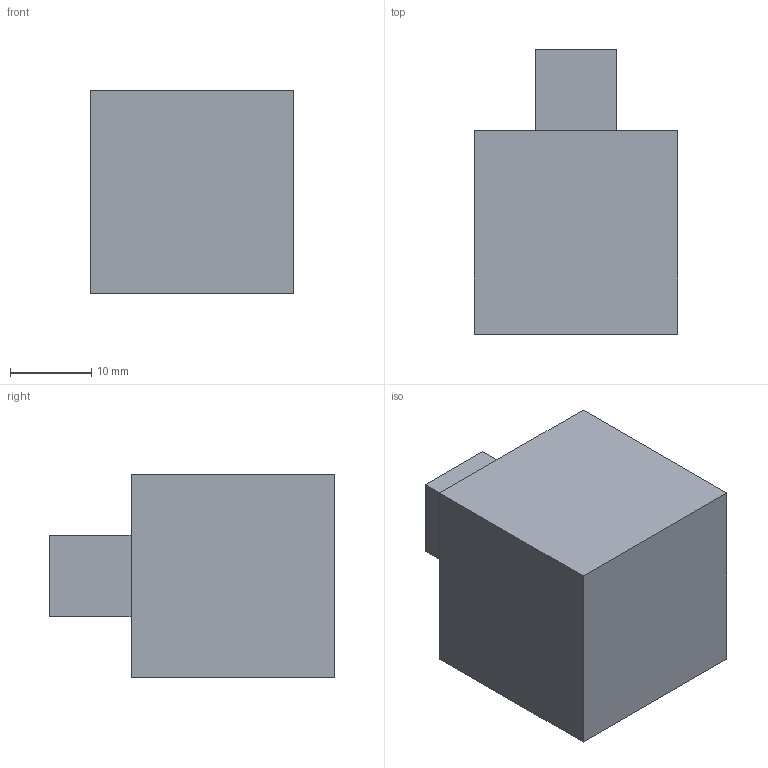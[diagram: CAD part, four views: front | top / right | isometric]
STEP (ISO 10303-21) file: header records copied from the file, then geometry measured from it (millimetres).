
FILE_DESCRIPTION( ( 'STEP AP214' ), '1' );
FILE_NAME( 'C:/Users/KOSH/Desktop/2021/Knob Pola/9071869.stp', '2021-01-29T08:42:51', ( '' ), ( '' ), ' ', 'PARTsolutions', ' ' );
FILE_SCHEMA( ( 'AUTOMOTIVE_DESIGN { 1 0 10303 214 1 1 1 1 }' ) );
Length unit declared in the file: millimetre
Products named in the file (1): _9071869
Bounding box: 25 x 35 x 25 mm (x, y, z)
Volume: 16524.5 mm3; surface area: 4250.5 mm2
Topology: 1 solids, 1 shells, 13 faces, 27 edges, 18 vertices
Faces by surface type: plane 12, cylinder 1
Full cylindrical faces by diameter (mm): 4 x1
Entity records: 458 total; most frequent: CARTESIAN_POINT 58, DIRECTION 56, ORIENTED_EDGE 52, EDGE_CURVE 26, LINE 24, VECTOR 24, VERTEX_POINT 18, AXIS2_PLACEMENT_3D 16
